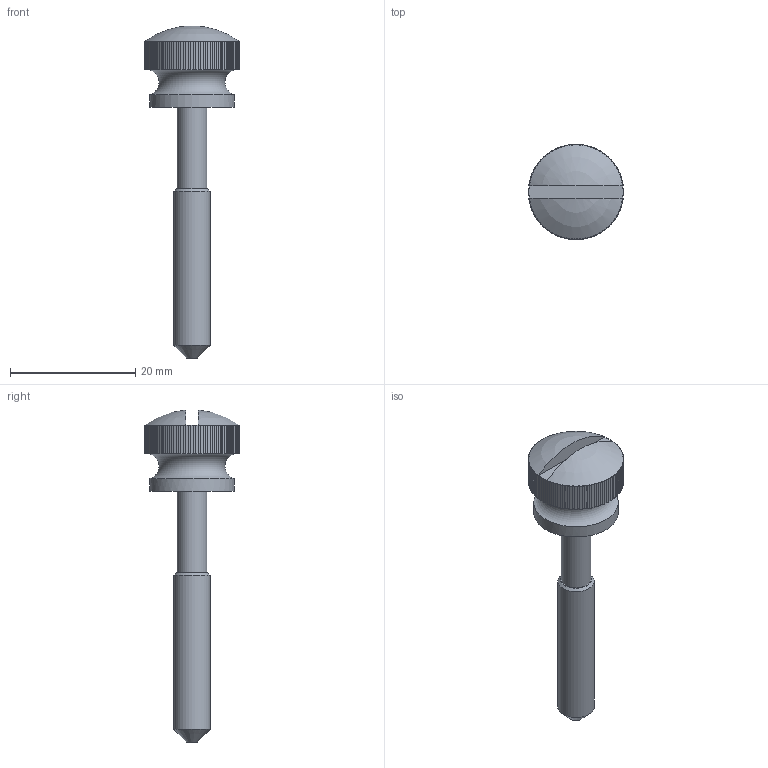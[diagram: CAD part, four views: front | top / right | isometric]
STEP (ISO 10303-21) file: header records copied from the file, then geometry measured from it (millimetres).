
FILE_DESCRIPTION(/* description */ (''),/* implementation_level */ '2;1');
FILE_NAME(/* name */ '\\SYNOLOGYNAS\web\db2\K-HSH15-M5_M\도면\M6\K-HSH15-M6-40.stp',/* time_stamp */ '2024-10-14T14:11:34+09:00',/* author */ ('user'),/* organization */ (''),/* preprocessor_version */ 'ST-DEVELOPER v15.6',/* originating_system */ 'Autodesk Inventor 2015',/* authorisation */ '');
FILE_SCHEMA (('AUTOMOTIVE_DESIGN { 1 0 10303 214 3 1 1 }'));
Length unit declared in the file: millimetre
Products named in the file (1): K-HSH15-M6-40
Bounding box: 15.19 x 15.2 x 52.96 mm (x, y, z)
Volume: 2589.4 mm3; surface area: 1647.1 mm2
Topology: 1 solids, 1 shells, 308 faces, 798 edges, 494 vertices
Faces by surface type: plane 240, cylinder 63, cone 2, sphere 2, torus 1
Full cylindrical faces by diameter (mm): 4.7 x1, 5.8 x1, 13.5 x1
Entity records: 9514 total; most frequent: CARTESIAN_POINT 2251, ORIENTED_EDGE 1580, DIRECTION 1416, EDGE_CURVE 790, AXIS2_PLACEMENT_3D 497, VERTEX_POINT 492, LINE 422, VECTOR 422
